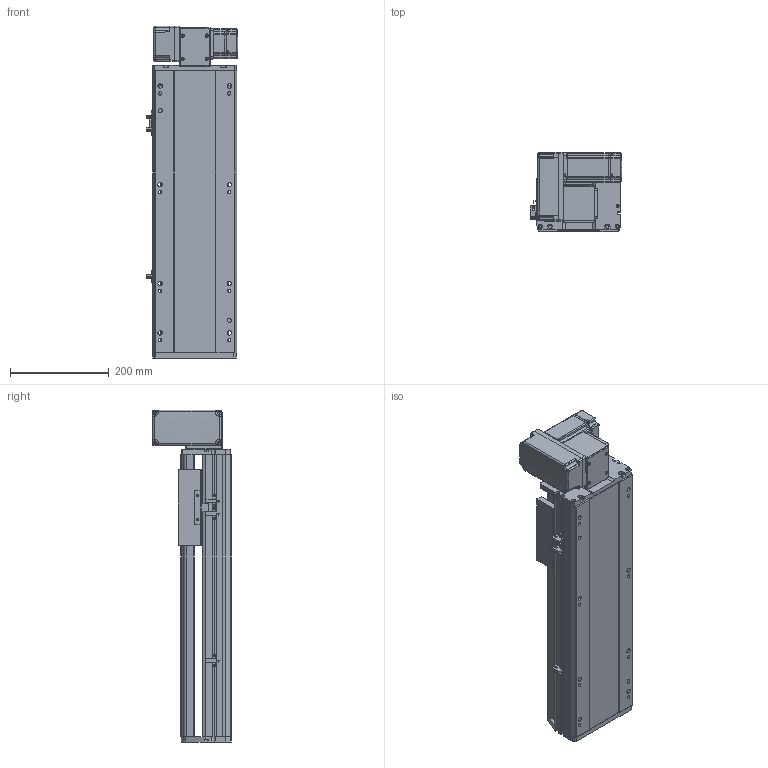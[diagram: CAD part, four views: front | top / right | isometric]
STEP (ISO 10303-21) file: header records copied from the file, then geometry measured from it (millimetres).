
FILE_DESCRIPTION (( 'STEP AP214' ), '1' );
FILE_NAME ('RTB17S-XX-300-LW-M40-C4.STEP', '2025-12-11T06:55:55', ( '' ), ( '' ), 'SwSTEP 2.0', 'SolidWorks 2018', '' );
FILE_SCHEMA (( 'AUTOMOTIVE_DESIGN' ));
Length unit declared in the file: millimetre
Products named in the file (14): RTB17S-L-004佪裝蹟譫蟀諉釱^RTB17S-XX-XX-LW-M40-C4; RTB17S-LW-々湍釱蚾饜-400W^RTB17S-XX-XX-LW-M40-C4; RTB17S-L-014-T20--々湍釱^RTB17S-LW-々湍釱蚾饜-400W_RTB17S-XX-XX-LW-M40-C4; RTB17-R-011菁釱^RTB17S-XX-XX-LW-M40-C4; RTB14-L-005P--轴承塑胶压盖^RTB17S-LW-皮带座装配-400W_RTB17S-XX-XX-LW-M40-C4; 400W侜督萇儂^RTB17S-XX-XX-LW-M40-C4; RTB14-L-008-M20--萇儂啣^RTB17S-LW-々湍釱蚾饜-400W_RTB17S-XX-XX-LW-M40-C4; RTB17S-L-007奻裔^RTB17S-XX-XX-LW-M40-C4; OMRON EE-SX672 传感器^RTB17S-XX-XX-LW-M40-C4; RTB14-L-018P^RTB17S-LW-々湍釱蚾饜-400W_RTB17S-XX-XX-LW-M40-C4; RTB17S-XX-300-LW-M40-C4; RTB17S-L-001耜醱啣^RTB17S-XX-XX-LW-M40-C4; RTB14-L-017P^RTB17S-LW-々湍釱蚾饜-400W_RTB17S-XX-XX-LW-M40-C4; RTH13-BL-012覜茼え俋离^RTB17S-XX-XX-LW-M40-C4
Assembly tree (16 placements, depth 3):
  RTB17S-XX-300-LW-M40-C4
    RTB17-R-011菁釱^RTB17S-XX-XX-LW-M40-C4
    RTB17S-L-007奻裔^RTB17S-XX-XX-LW-M40-C4
    OMRON EE-SX672 传感器^RTB17S-XX-XX-LW-M40-C4  x3
    RTB17S-L-001耜醱啣^RTB17S-XX-XX-LW-M40-C4
    400W侜督萇儂^RTB17S-XX-XX-LW-M40-C4
    RTB17S-L-004佪裝蹟譫蟀諉釱^RTB17S-XX-XX-LW-M40-C4
    RTH13-BL-012覜茼え俋离^RTB17S-XX-XX-LW-M40-C4
    RTB17S-LW-々湍釱蚾饜-400W^RTB17S-XX-XX-LW-M40-C4
      RTB17S-L-014-T20--々湍釱^RTB17S-LW-々湍釱蚾饜-400W_RTB17S-XX-XX-LW-M40-C4
      RTB14-L-005P--轴承塑胶压盖^RTB17S-LW-皮带座装配-400W_RTB17S-XX-XX-LW-M40-C4
      RTB14-L-008-M20--萇儂啣^RTB17S-LW-々湍釱蚾饜-400W_RTB17S-XX-XX-LW-M40-C4
      RTB14-L-017P^RTB17S-LW-々湍釱蚾饜-400W_RTB17S-XX-XX-LW-M40-C4  x2
      RTB14-L-018P^RTB17S-LW-々湍釱蚾饜-400W_RTB17S-XX-XX-LW-M40-C4
Bounding box: 186 x 160.5 x 672.5 mm (x, y, z)
Volume: 6663312.5 mm3; surface area: 876460.2 mm2
Topology: 15 solids, 15 shells, 2157 faces, 5925 edges, 3861 vertices
Faces by surface type: plane 1062, cylinder 647, bspline 301, cone 139, torus 8
Entity records: 60329 total; most frequent: CARTESIAN_POINT 16730, ORIENTED_EDGE 8694, DIRECTION 8126, EDGE_CURVE 4347, VERTEX_POINT 2849, AXIS2_PLACEMENT_3D 2779, VECTOR 2568, LINE 2568
